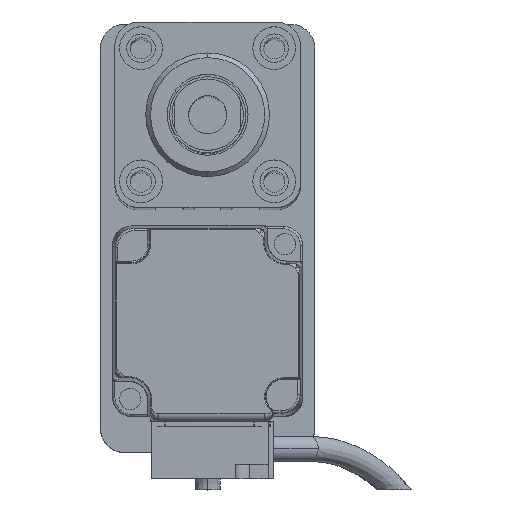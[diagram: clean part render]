
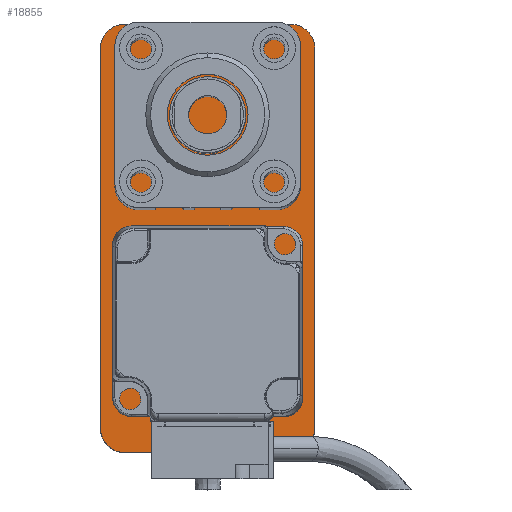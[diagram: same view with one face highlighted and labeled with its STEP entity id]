
A CAD part, top view. The second image highlights one B-rep face of the part: STEP entity #18855.
In plain terms, the highlighted planar face has unit normal (0, 0, 1).
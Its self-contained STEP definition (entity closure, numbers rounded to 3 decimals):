
#438 = EDGE_CURVE ( 'NONE', #18220, #22435, #10798, .T. ) ;
#462 = ORIENTED_EDGE ( 'NONE', *, *, #28335, .T. ) ;
#491 = AXIS2_PLACEMENT_3D ( 'NONE', #20072, #22276, #5996 ) ;
#1363 = LINE ( 'NONE', #14573, #21232 ) ;
#1700 = CARTESIAN_POINT ( 'NONE',  ( 17.5, -45., 10. ) ) ;
#1878 = VECTOR ( 'NONE', #20478, 1000. ) ;
#2142 = AXIS2_PLACEMENT_3D ( 'NONE', #25317, #4520, #27841 ) ;
#2271 = CARTESIAN_POINT ( 'NONE',  ( 17.5, -40., 10. ) ) ;
#2487 = AXIS2_PLACEMENT_3D ( 'NONE', #2271, #18434, #6893 ) ;
#2514 = ORIENTED_EDGE ( 'NONE', *, *, #11136, .T. ) ;
#2608 = FACE_OUTER_BOUND ( 'NONE', #10891, .T. ) ;
#2836 = DIRECTION ( 'NONE',  ( 0., 0., 1. ) ) ;
#3719 = CIRCLE ( 'NONE', #491, 5. ) ;
#4057 = LINE ( 'NONE', #11058, #1878 ) ;
#4520 = DIRECTION ( 'NONE',  ( 0., 0., 1. ) ) ;
#4758 = VERTEX_POINT ( 'NONE', #6637 ) ;
#5018 = DIRECTION ( 'NONE',  ( 1., 0., 0. ) ) ;
#5262 = DIRECTION ( 'NONE',  ( 0., 1., 0. ) ) ;
#5373 = CARTESIAN_POINT ( 'NONE',  ( -22.5, 40., 10. ) ) ;
#5996 = DIRECTION ( 'NONE',  ( 1., 0., 0. ) ) ;
#6563 = EDGE_CURVE ( 'NONE', #14597, #11792, #3719, .T. ) ;
#6637 = CARTESIAN_POINT ( 'NONE',  ( -22.5, -40., 10. ) ) ;
#6893 = DIRECTION ( 'NONE',  ( 1., 0., 0. ) ) ;
#7853 = CARTESIAN_POINT ( 'NONE',  ( -17.5, 40., 10. ) ) ;
#8252 = ORIENTED_EDGE ( 'NONE', *, *, #438, .T. ) ;
#8378 = ORIENTED_EDGE ( 'NONE', *, *, #6563, .T. ) ;
#8495 = CIRCLE ( 'NONE', #2487, 5. ) ;
#8620 = CARTESIAN_POINT ( 'NONE',  ( -22.5, -45., 10. ) ) ;
#8873 = EDGE_CURVE ( 'NONE', #21926, #11474, #9194, .T. ) ;
#9194 = LINE ( 'NONE', #12111, #11362 ) ;
#9886 = VECTOR ( 'NONE', #16331, 1000. ) ;
#9915 = DIRECTION ( 'NONE',  ( 1., 0., 0. ) ) ;
#10798 = CIRCLE ( 'NONE', #20754, 5. ) ;
#10891 = EDGE_LOOP ( 'NONE', ( #21203, #8378, #11265, #8252, #2514, #462, #11997, #18078 ) ) ;
#11021 = CARTESIAN_POINT ( 'NONE',  ( -17.5, 45., 10. ) ) ;
#11058 = CARTESIAN_POINT ( 'NONE',  ( 22.5, 45., 10. ) ) ;
#11136 = EDGE_CURVE ( 'NONE', #22435, #4758, #22174, .T. ) ;
#11265 = ORIENTED_EDGE ( 'NONE', *, *, #12126, .T. ) ;
#11362 = VECTOR ( 'NONE', #5018, 1000. ) ;
#11474 = VERTEX_POINT ( 'NONE', #1700 ) ;
#11792 = VERTEX_POINT ( 'NONE', #29369 ) ;
#11997 = ORIENTED_EDGE ( 'NONE', *, *, #8873, .T. ) ;
#12111 = CARTESIAN_POINT ( 'NONE',  ( 22.5, -45., 10. ) ) ;
#12126 = EDGE_CURVE ( 'NONE', #11792, #18220, #4057, .T. ) ;
#13486 = CARTESIAN_POINT ( 'NONE',  ( 22.5, -40., 10. ) ) ;
#14573 = CARTESIAN_POINT ( 'NONE',  ( 22.5, -45., 10. ) ) ;
#14597 = VERTEX_POINT ( 'NONE', #28087 ) ;
#16331 = DIRECTION ( 'NONE',  ( 0., -1., 0. ) ) ;
#17441 = AXIS2_PLACEMENT_3D ( 'NONE', #19120, #2836, #9915 ) ;
#17467 = CARTESIAN_POINT ( 'NONE',  ( -17.5, -45., 10. ) ) ;
#18078 = ORIENTED_EDGE ( 'NONE', *, *, #28836, .T. ) ;
#18220 = VERTEX_POINT ( 'NONE', #11021 ) ;
#18434 = DIRECTION ( 'NONE',  ( 0., 0., 1. ) ) ;
#18855 = ADVANCED_FACE ( 'NONE', ( #2608 ), #25622, .T. ) ;
#19120 = CARTESIAN_POINT ( 'NONE',  ( -17.5, -40., 10. ) ) ;
#19205 = DIRECTION ( 'NONE',  ( 0., 0., 1. ) ) ;
#19448 = CIRCLE ( 'NONE', #17441, 5. ) ;
#20032 = VERTEX_POINT ( 'NONE', #13486 ) ;
#20072 = CARTESIAN_POINT ( 'NONE',  ( 17.5, 40., 10. ) ) ;
#20478 = DIRECTION ( 'NONE',  ( -1., 0., 0. ) ) ;
#20754 = AXIS2_PLACEMENT_3D ( 'NONE', #7853, #19205, #24030 ) ;
#21203 = ORIENTED_EDGE ( 'NONE', *, *, #22420, .T. ) ;
#21232 = VECTOR ( 'NONE', #5262, 1000. ) ;
#21926 = VERTEX_POINT ( 'NONE', #17467 ) ;
#22174 = LINE ( 'NONE', #8620, #9886 ) ;
#22276 = DIRECTION ( 'NONE',  ( 0., 0., 1. ) ) ;
#22420 = EDGE_CURVE ( 'NONE', #20032, #14597, #1363, .T. ) ;
#22435 = VERTEX_POINT ( 'NONE', #5373 ) ;
#24030 = DIRECTION ( 'NONE',  ( 1., 0., 0. ) ) ;
#25317 = CARTESIAN_POINT ( 'NONE',  ( 0., 0., 10. ) ) ;
#25622 = PLANE ( 'NONE',  #2142 ) ;
#27841 = DIRECTION ( 'NONE',  ( 1., 0., 0. ) ) ;
#28087 = CARTESIAN_POINT ( 'NONE',  ( 22.5, 40., 10. ) ) ;
#28335 = EDGE_CURVE ( 'NONE', #4758, #21926, #19448, .T. ) ;
#28836 = EDGE_CURVE ( 'NONE', #11474, #20032, #8495, .T. ) ;
#29369 = CARTESIAN_POINT ( 'NONE',  ( 17.5, 45., 10. ) ) ;
